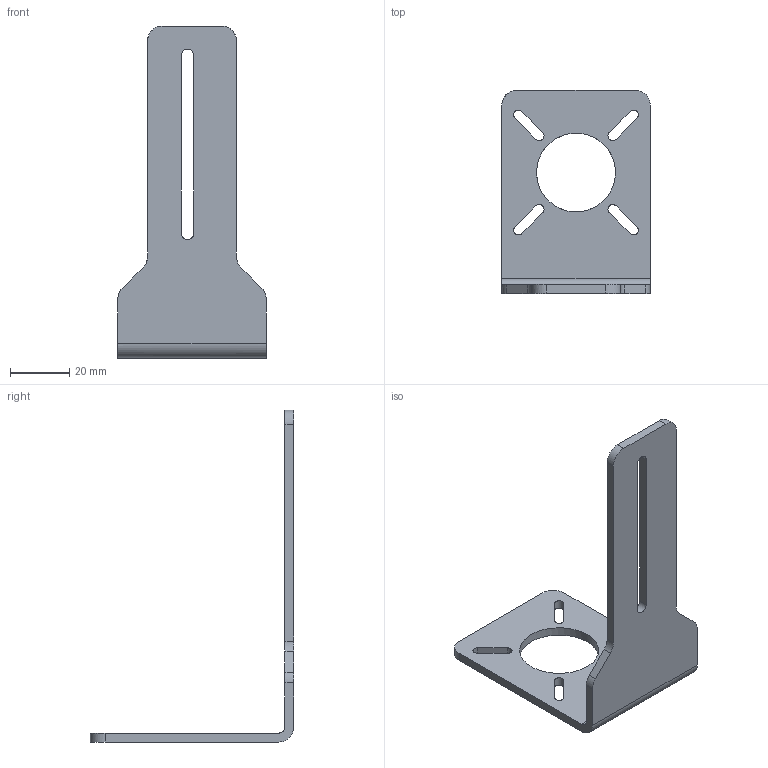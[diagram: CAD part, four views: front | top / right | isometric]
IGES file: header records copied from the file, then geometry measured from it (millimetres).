
Global section: file name: 153-00722_MA LR-26_112 FA 45 Haltewinkel Beleuchtung; native system: Autodesk Inventor 2018; preprocessor: unknown; author: mum; date: 20180502.084213; units: millimetre
Bounding box: 50 x 68.6 x 112 mm (x, y, z)
Volume: 18301.3 mm3; surface area: 14508 mm2
Topology: 1 solids, 1 shells, 43 faces, 123 edges, 82 vertices
Faces by surface type: bspline 43
